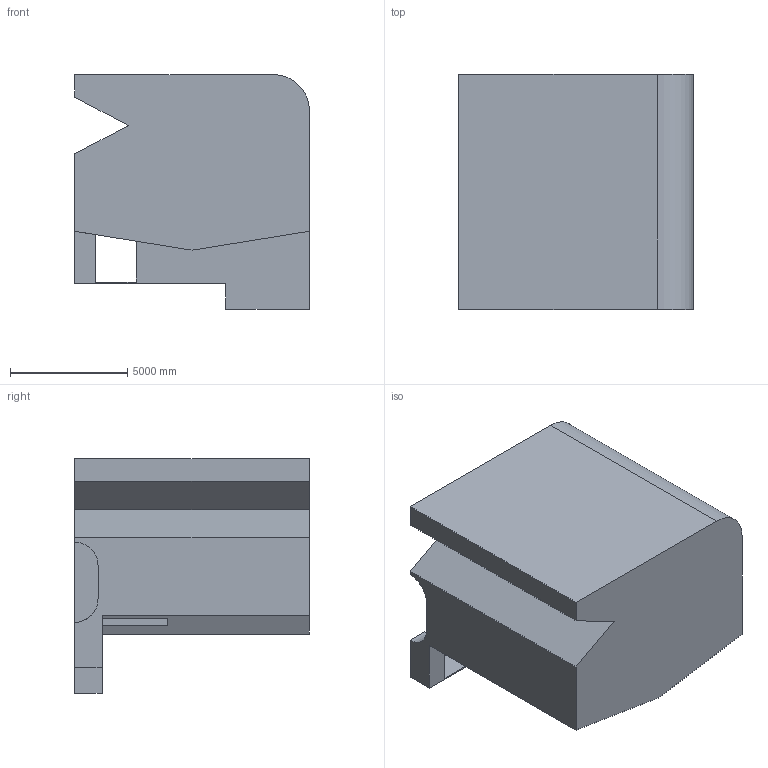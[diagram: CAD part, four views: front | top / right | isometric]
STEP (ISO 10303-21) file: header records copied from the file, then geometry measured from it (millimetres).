
FILE_DESCRIPTION (( 'STEP AP203' ), '1' );
FILE_NAME ('338.STEP', '2022-09-07T12:59:15', ( 'user' ), ( '' ), 'SwSTEP 2.0', 'SolidWorks 2021', '' );
FILE_SCHEMA (( 'CONFIG_CONTROL_DESIGN' ));
Length unit declared in the file: centimetre
Products named in the file (1): 338
Bounding box: 10000 x 10000 x 10000 mm (x, y, z)
Volume: 663189706555.7 mm3; surface area: 582034533.4 mm2
Topology: 1 solids, 1 shells, 27 faces, 78 edges, 52 vertices
Faces by surface type: plane 22, cylinder 5
Entity records: 965 total; most frequent: CARTESIAN_POINT 158, ORIENTED_EDGE 156, DIRECTION 146, EDGE_CURVE 78, VECTOR 66, LINE 66, VERTEX_POINT 52, AXIS2_PLACEMENT_3D 40
